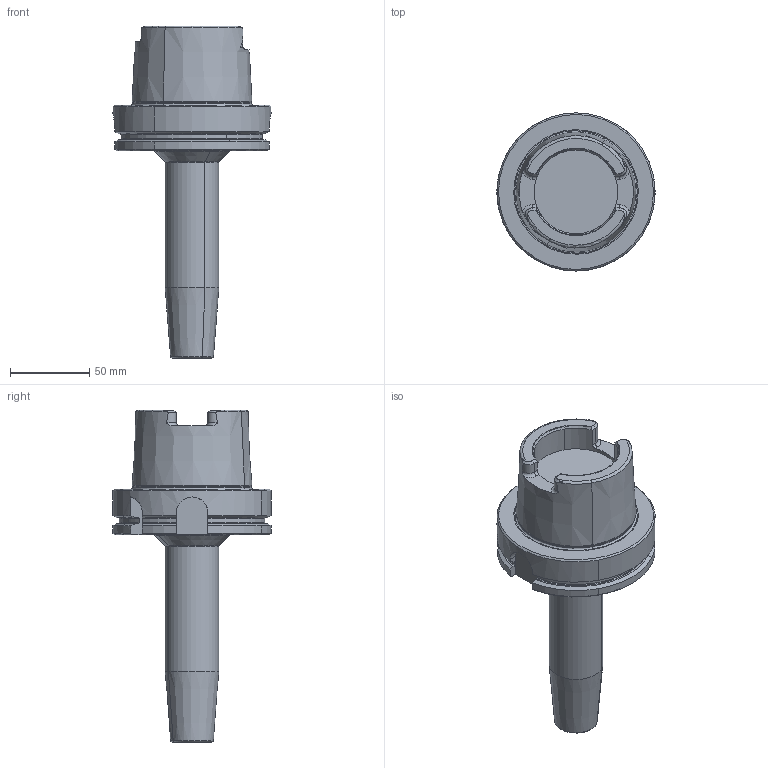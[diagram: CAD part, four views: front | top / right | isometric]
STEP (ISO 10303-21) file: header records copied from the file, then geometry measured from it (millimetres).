
FILE_DESCRIPTION(('CATIA V5 STEP','CAx-IF Rec.Pracs.--- Model Styling and Organization---1.2---2011-12-15'),'2;1');
FILE_NAME('\\nas01\drv1\utils\eitdev\rte\eit\transmagicconvert\db\out\4504218 L.stp','2014-04-06T05:01:42+00:00',('none'),('none'),'CATIA Version 5 Release 21 SP 5 (IN-10)','CATIA V5 STEP AP214','none');
FILE_SCHEMA(('AUTOMOTIVE_DESIGN { 1 0 10303 214 1 1 1 1 }'));
Length unit declared in the file: millimetre
Products named in the file (1): 60970873_0 Holder-Tool HSK A 100 SRKIN 16X160
Bounding box: 99.99 x 100 x 210 mm (x, y, z)
Volume: 498626.3 mm3; surface area: 51975.5 mm2
Topology: 1 solids, 1 shells, 137 faces, 350 edges, 218 vertices
Faces by surface type: plane 37, cone 35, cylinder 33, torus 32
Entity records: 4116 total; most frequent: CARTESIAN_POINT 1175, ORIENTED_EDGE 700, DIRECTION 439, EDGE_CURVE 350, AXIS2_PLACEMENT_3D 241, VERTEX_POINT 218, CIRCLE 159, EDGE_LOOP 140
